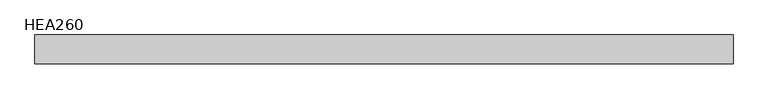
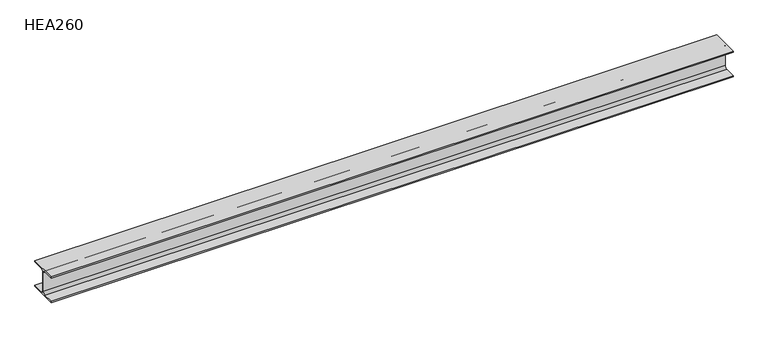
"""IFC4 building model written with IfcOpenShell, lengths in millimetres: beam geometry, HE-A : HEA260."""

from ifc_helpers import new_model, si_unit, point, frame, frame_2d, origin, place, context, project, spatial, polyline, circle_curve, trimmed, segment, composite_curve, outline, extrude, source, transform, mapped, element, save


def hea260_97ac0598(model_context):
    return source(origin(), model_context, "Body", "SweptSolid", [
        extrude(outline(composite_curve([segment(polyline([(130.0, -112.5), (130.0, -125.0), (-130.0, -125.0), (-130.0, -112.5), (-27.75, -112.5)]), True, "CONTINUOUS"), segment(trimmed(circle_curve(frame_2d((-27.75, -88.5)), 24.0), [point((-27.75, -112.5))], [point((-3.75, -88.5))], True, "CARTESIAN"), True, "CONTINUOUS"), segment(polyline([(-3.75, -88.5), (-3.75, 88.5)]), True, "CONTINUOUS"), segment(trimmed(circle_curve(frame_2d((-27.75, 88.5)), 24.0), [point((-3.75, 88.5))], [point((-27.75, 112.5))], True, "CARTESIAN"), True, "CONTINUOUS"), segment(polyline([(-27.75, 112.5), (-130.0, 112.5), (-130.0, 125.0), (130.0, 125.0), (130.0, 112.5), (27.75, 112.5)]), True, "CONTINUOUS"), segment(trimmed(circle_curve(frame_2d((27.75, 88.5)), 24.0), [point((27.75, 112.5))], [point((3.75, 88.5))], True, "CARTESIAN"), True, "CONTINUOUS"), segment(polyline([(3.75, 88.5), (3.75, -88.5)]), True, "CONTINUOUS"), segment(trimmed(circle_curve(frame_2d((27.75, -88.5)), 24.0), [point((3.75, -88.5))], [point((27.75, -112.5))], True, "CARTESIAN"), True, "CONTINUOUS"), segment(polyline([(27.75, -112.5), (130.0, -112.5)]), True, "CONTINUOUS")], self_intersect=False)), frame((-3125.05, 0.0, 0.0), z_axis=(1.0, 0.0, 0.0), x_axis=(0.0, 1.0, 0.0)), (0.0, 0.0, 1.0), 6250.1),
    ])


if __name__ == "__main__":
    model = new_model("IFC4")
    model_context = context("Model", 3, world=origin())
    ifc_project = project(units=[si_unit("LENGTHUNIT", "METRE", prefix="MILLI")], contexts=[model_context])
    site = spatial("IfcSite", under=ifc_project)
    building = spatial("IfcBuilding", under=site)
    placement = place(None, origin())
    hea260_shape = hea260_97ac0598(model_context)
    element("IfcBeam", 1, ObjectType="HE-A : HEA260", at=placement, inside=building, context=model_context, shape_type="MappedRepresentation", body=[
        mapped(hea260_shape, transform((0.0, 0.0, 0.0), x_axis=(1.0, 0.0, 0.0), y_axis=(0.0, 1.0, 0.0), z_axis=(0.0, 0.0, 1.0))),
    ])
    save(model, "model.ifc")
